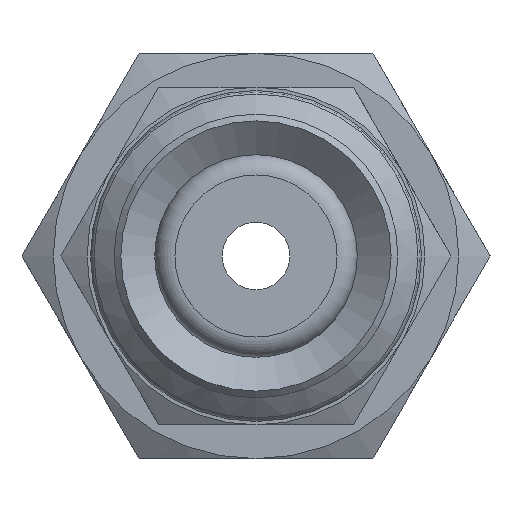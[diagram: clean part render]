
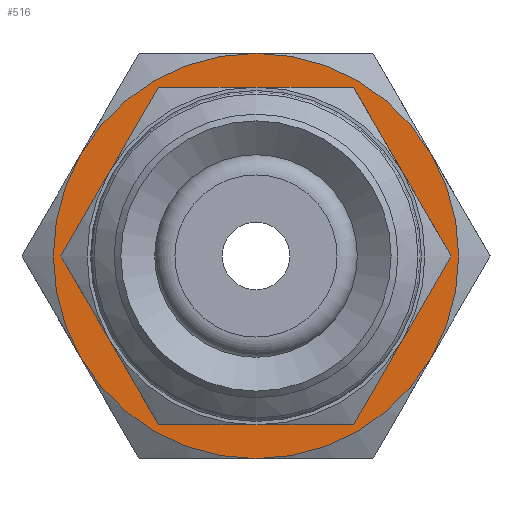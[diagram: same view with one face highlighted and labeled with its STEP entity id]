
A CAD part, front view. The second image highlights one B-rep face of the part: STEP entity #516.
In plain terms, the highlighted planar face has unit normal (0, -1, 0) as drawn and (-1, 0, 0) by its records, which use the part's own axes.
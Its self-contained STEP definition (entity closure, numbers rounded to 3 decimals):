
#516=ADVANCED_FACE('',(#714,#715),#716,.F.);
#714=FACE_BOUND('',#1002,.T.);
#715=FACE_OUTER_BOUND('',#1003,.T.);
#716=PLANE('',#1004);
#1002=EDGE_LOOP('',(#1560));
#1003=EDGE_LOOP('',(#1561,#1562,#1563,#1564,#1565,#1566));
#1004=AXIS2_PLACEMENT_3D('',#1567,#1568,#1569);
#1560=ORIENTED_EDGE('',*,*,#2025,.T.);
#1561=ORIENTED_EDGE('',*,*,#1988,.F.);
#1562=ORIENTED_EDGE('',*,*,#2005,.F.);
#1563=ORIENTED_EDGE('',*,*,#2017,.F.);
#1564=ORIENTED_EDGE('',*,*,#2026,.F.);
#1565=ORIENTED_EDGE('',*,*,#2024,.F.);
#1566=ORIENTED_EDGE('',*,*,#2009,.F.);
#1567=CARTESIAN_POINT('',(0.,0.0,0.0));
#1568=DIRECTION('',(1.0,0.0,0.0));
#1569=DIRECTION('',(0.0,1.0,0.0));
#1988=EDGE_CURVE('',#2252,#2254,#2255,.T.);
#2005=EDGE_CURVE('',#2281,#2252,#2284,.T.);
#2009=EDGE_CURVE('',#2254,#2290,#2291,.T.);
#2017=EDGE_CURVE('',#2303,#2281,#2304,.T.);
#2024=EDGE_CURVE('',#2290,#2311,#2313,.T.);
#2025=EDGE_CURVE('',#2314,#2314,#2315,.T.);
#2026=EDGE_CURVE('',#2311,#2303,#2316,.T.);
#2252=VERTEX_POINT('',#2682);
#2254=VERTEX_POINT('',#2694);
#2255=CIRCLE('',#2695,6.0);
#2281=VERTEX_POINT('',#2805);
#2284=CIRCLE('',#2828,6.0);
#2290=VERTEX_POINT('',#2844);
#2291=CIRCLE('',#2845,6.0);
#2303=VERTEX_POINT('',#2907);
#2304=CIRCLE('',#2908,6.0);
#2311=VERTEX_POINT('',#2946);
#2313=CIRCLE('',#2958,6.0);
#2314=VERTEX_POINT('',#2959);
#2315=CIRCLE('',#2960,4.0);
#2316=CIRCLE('',#2961,6.0);
#2682=CARTESIAN_POINT('',(0.,5.196,-3.0));
#2694=CARTESIAN_POINT('',(0.,5.196,3.0));
#2695=AXIS2_PLACEMENT_3D('',#3288,#3289,#3290);
#2805=CARTESIAN_POINT('',(0.,0.0,-6.0));
#2828=AXIS2_PLACEMENT_3D('',#3301,#3302,#3303);
#2844=CARTESIAN_POINT('',(0.,0.0,6.0));
#2845=AXIS2_PLACEMENT_3D('',#3310,#3311,#3312);
#2907=CARTESIAN_POINT('',(0.,-5.196,-3.0));
#2908=AXIS2_PLACEMENT_3D('',#3319,#3320,#3321);
#2946=CARTESIAN_POINT('',(0.,-5.196,3.0));
#2958=AXIS2_PLACEMENT_3D('',#3326,#3327,#3328);
#2959=CARTESIAN_POINT('',(0.,0.0,-4.0));
#2960=AXIS2_PLACEMENT_3D('',#3329,#3330,#3331);
#2961=AXIS2_PLACEMENT_3D('',#3332,#3333,#3334);
#3288=CARTESIAN_POINT('',(0.,0.0,0.0));
#3289=DIRECTION('',(1.0,0.0,0.0));
#3290=DIRECTION('',(0.0,0.0,-1.0));
#3301=CARTESIAN_POINT('',(0.,0.0,0.0));
#3302=DIRECTION('',(1.0,0.0,0.0));
#3303=DIRECTION('',(0.0,0.0,-1.0));
#3310=CARTESIAN_POINT('',(0.,0.0,0.0));
#3311=DIRECTION('',(1.0,0.0,0.0));
#3312=DIRECTION('',(0.0,0.0,-1.0));
#3319=CARTESIAN_POINT('',(0.,0.0,0.0));
#3320=DIRECTION('',(1.0,0.0,0.0));
#3321=DIRECTION('',(0.0,0.0,-1.0));
#3326=CARTESIAN_POINT('',(0.,0.0,0.0));
#3327=DIRECTION('',(1.0,0.0,0.0));
#3328=DIRECTION('',(0.0,0.0,-1.0));
#3329=CARTESIAN_POINT('',(0.,0.0,0.0));
#3330=DIRECTION('',(1.0,0.0,0.0));
#3331=DIRECTION('',(0.0,0.0,-1.0));
#3332=CARTESIAN_POINT('',(0.,0.0,0.0));
#3333=DIRECTION('',(1.0,0.0,0.0));
#3334=DIRECTION('',(0.0,0.0,-1.0));
